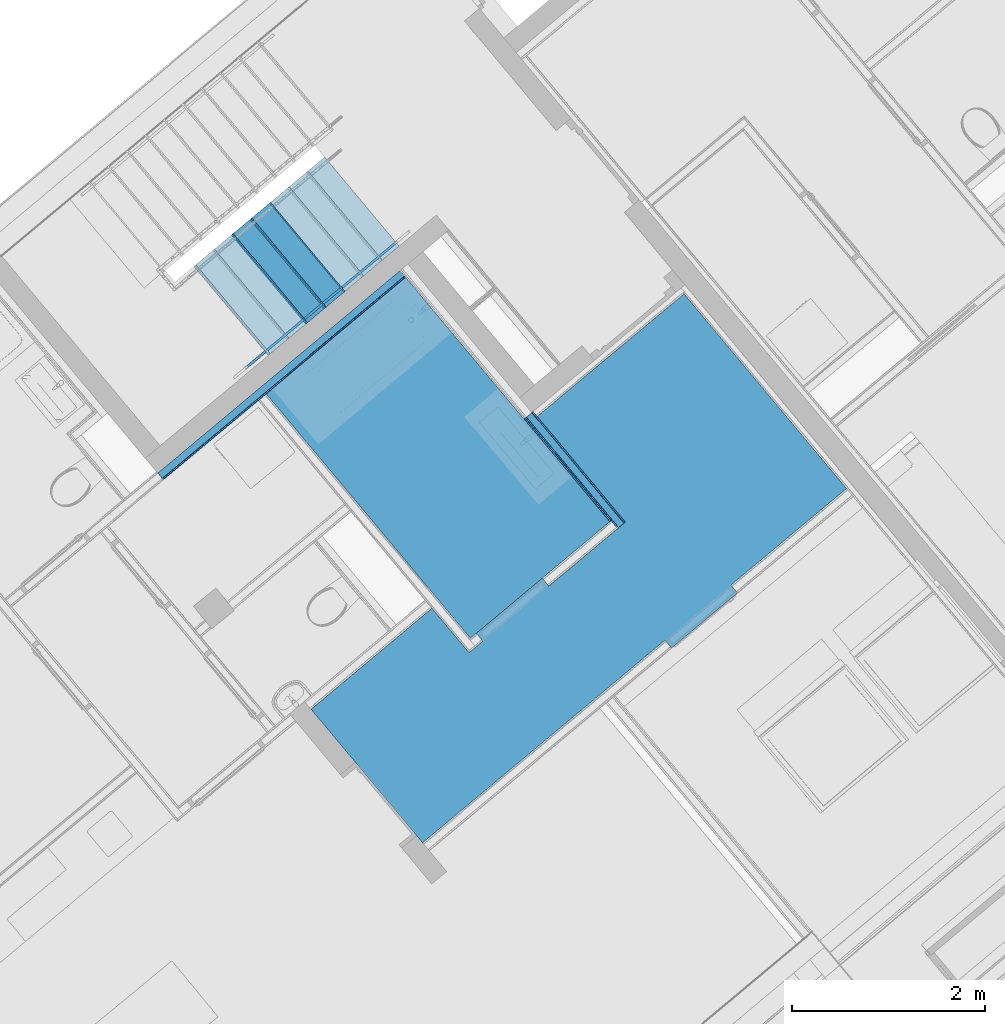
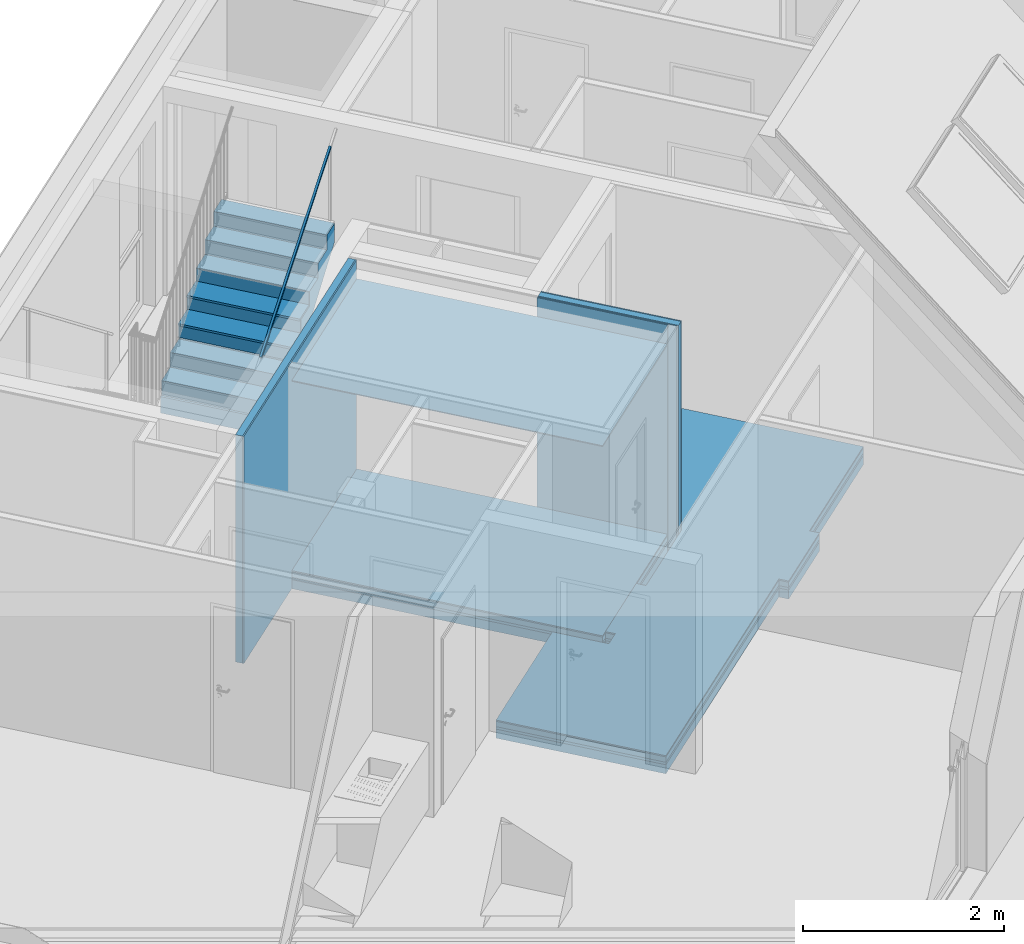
# One storey, part 28 of 61: 22 building element parts, 7 elements without a shape of their own.
"""IFC4 building model written with IfcOpenShell, lengths in metres."""

from ifc_helpers import new_model, entity, si_unit, converted_unit, derived_unit, direction, frame, origin_with_axes, place, context, subcontext, project, spatial, polygons, material, type_object, element, aggregate, save


model = new_model("IFC4")

# Units and contexts
model_context = context("Model", 3, precision=1e-05, world=origin_with_axes(), true_north=direction((0.0, 1.0)))
body_context = subcontext(model_context, "Body", "Model", "MODEL_VIEW")
ifc_project = project(units=[si_unit("LENGTHUNIT", "METRE"), si_unit("AREAUNIT", "SQUARE_METRE"), si_unit("VOLUMEUNIT", "CUBIC_METRE"), converted_unit("PLANEANGLEUNIT", "DEGREE", entity("IfcPlaneAngleMeasure", 0.0174532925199), si_unit("PLANEANGLEUNIT", "RADIAN"), dimensions=[0, 0, 0, 0, 0, 0, 0]), converted_unit("TIMEUNIT", "Year", entity("IfcTimeMeasure", 31556926.0), si_unit("TIMEUNIT", "SECOND"), dimensions=[0, 0, 1, 0, 0, 0, 0]), si_unit("MASSUNIT", "GRAM", prefix="KILO"), si_unit("THERMODYNAMICTEMPERATUREUNIT", "DEGREE_CELSIUS"), si_unit("LUMINOUSINTENSITYUNIT", "LUMEN"), si_unit("ENERGYUNIT", "JOULE", prefix="MEGA"), derived_unit("THERMALCONDUCTANCEUNIT", [(si_unit("POWERUNIT", "WATT"), 1), (si_unit("LENGTHUNIT", "METRE"), -1), (si_unit("THERMODYNAMICTEMPERATUREUNIT", "KELVIN"), -1)]), derived_unit("SPECIFICHEATCAPACITYUNIT", [(si_unit("ENERGYUNIT", "JOULE"), 1), (si_unit("MASSUNIT", "GRAM", prefix="KILO"), -1), (si_unit("THERMODYNAMICTEMPERATUREUNIT", "KELVIN"), -1)]), derived_unit("MASSDENSITYUNIT", [(si_unit("MASSUNIT", "GRAM", prefix="KILO"), 1), (si_unit("VOLUMEUNIT", "CUBIC_METRE"), -1)])], contexts=[model_context])

# Site, building, storey
site_placement = place(None, frame((-0.00153261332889, -0.00661245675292, 0.0), z_axis=(0.0, 0.0, 1.0), x_axis=(1.0, 0.0, 0.0)))
site = spatial("IfcSite", under=ifc_project, at=site_placement, Name="Gelände", CompositionType="ELEMENT")
building_placement = place(site_placement, origin_with_axes())
building = spatial("IfcBuilding", under=site, at=building_placement, Name="Gebäude", CompositionType="ELEMENT")
storey_placement = place(building_placement, frame((0.0, 0.0, 5.7), z_axis=(0.0, 0.0, 1.0), x_axis=(1.0, 0.0, 0.0)))
storey = spatial("IfcBuildingStorey", under=building, at=storey_placement, Name="DG1", CompositionType="ELEMENT", Elevation=5.7)

# Wall, building element parts
wall_type_1 = type_object("IfcWallType", Name="LB 13 cm doppelte Vorsatzschale Bad  120", PredefinedType="NOTDEFINED")
wall_1_placement = place(storey_placement, frame((1.57370414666, 20.8430493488, 0.0), z_axis=(0.0, 0.0, 1.0), x_axis=(0.641149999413, -0.767415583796, 0.0)))
wall_1 = element("IfcWall", 1, at=wall_1_placement, inside=storey, type_object=wall_type_1, Name="Wand-013", PredefinedType="NOTDEFINED")
ifc_material_1 = material(Name="Gipsputz")
building_element_part_1_placement = place(wall_1_placement, origin_with_axes())
building_element_part_1 = element("IfcBuildingElementPart", 2, at=building_element_part_1_placement, material=ifc_material_1, Name="Gipsputz", PredefinedType="NOTDEFINED", context=body_context, shape_type="Tessellation", body=[
    polygons([(1.48844578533, 0.12, 2.76), (0.0, 0.12, 2.76), (0.0, 0.105, 2.76), (1.48844694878, 0.105, 2.76), (1.48844578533, 0.12, 0.0), (0.0, 0.12, 0.0), (0.0, 0.105, 0.0), (1.48844694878, 0.105, 0.0)], [[[1, 2, 3, 4]], [[5, 6, 2, 1]], [[3, 2, 6, 7]], [[4, 3, 7, 8]], [[4, 8, 5, 1]], [[8, 7, 6, 5]]], closed=True),
])
ifc_material_2 = material(Name="Mineralwolle weich")
building_element_part_2_placement = place(wall_1_placement, origin_with_axes())
building_element_part_2 = element("IfcBuildingElementPart", 3, at=building_element_part_2_placement, material=ifc_material_2, Name="Mineralwolle weich", PredefinedType="NOTDEFINED", context=body_context, shape_type="Tessellation", body=[
    polygons([(1.48844694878, 0.105, 2.76), (0.0, 0.105, 2.76), (0.0, 0.03, 2.76), (1.48845276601, 0.03, 2.76), (1.48844694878, 0.105, 0.0), (0.0, 0.105, 0.0), (0.0, 0.03, 0.0), (1.48845276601, 0.03, 0.0)], [[[1, 2, 3, 4]], [[5, 6, 2, 1]], [[3, 2, 6, 7]], [[4, 3, 7, 8]], [[4, 8, 5, 1]], [[8, 7, 6, 5]]], closed=True),
])
ifc_material_3 = material(Name="Gipskarton")
building_element_part_3_placement = place(wall_1_placement, origin_with_axes())
building_element_part_3 = element("IfcBuildingElementPart", 4, at=building_element_part_3_placement, material=ifc_material_3, Name="Gipskarton", PredefinedType="NOTDEFINED", context=body_context, shape_type="Tessellation", body=[
    polygons([(1.47345276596, 0.03, 2.76), (0.0, 0.03, 2.76), (0.0, 0.015, 2.76), (1.47345392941, 0.015, 2.76), (1.47345276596, 0.03, 0.0), (0.0, 0.03, 0.0), (0.0, 0.015, 0.0), (1.47345392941, 0.015, 0.0)], [[[1, 2, 3, 4]], [[5, 6, 2, 1]], [[3, 2, 6, 7]], [[4, 3, 7, 8]], [[4, 8, 5, 1]], [[8, 7, 6, 5]]], closed=True),
])
building_element_part_4_placement = place(wall_1_placement, origin_with_axes())
building_element_part_4 = element("IfcBuildingElementPart", 5, at=building_element_part_4_placement, material=ifc_material_3, Name="Gipskarton", PredefinedType="NOTDEFINED", context=body_context, shape_type="Tessellation", body=[
    polygons([(1.38345392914, 0.015, 2.76), (0.0, 0.015, 2.76), (0.0, 0.0, 2.76), (1.38345509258, 0.0, 2.76), (1.38345392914, 0.015, 0.0), (0.0, 0.015, 0.0), (0.0, 0.0, 0.0), (1.38345509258, 0.0, 0.0)], [[[1, 2, 3, 4]], [[5, 6, 2, 1]], [[3, 2, 6, 7]], [[4, 3, 7, 8]], [[4, 8, 5, 1]], [[8, 7, 6, 5]]], closed=True),
])
aggregate(wall_1, [building_element_part_1, building_element_part_2, building_element_part_3, building_element_part_4])

wall_type_2 = type_object("IfcWallType", Name="LB 9,0 cm einfache Vorsatzschale  90", PredefinedType="NOTDEFINED")
wall_2_placement = place(storey_placement, frame((0.371124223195, 22.44598682, 0.0), z_axis=(0.0, 0.0, 1.0), x_axis=(-0.767365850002, -0.641209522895, 0.0)))
wall_2 = element("IfcWall", 6, at=wall_2_placement, inside=storey, type_object=wall_type_2, Name="Wand-006", PredefinedType="NOTDEFINED")
building_element_part_5_placement = place(wall_2_placement, origin_with_axes())
building_element_part_5 = element("IfcBuildingElementPart", 7, at=building_element_part_5_placement, material=ifc_material_3, Name="Gipskarton", PredefinedType="NOTDEFINED", context=body_context, shape_type="Tessellation", body=[
    polygons([(0.105000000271, 0.09, 0.0), (0.105000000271, 0.09, 2.76), (3.37051675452, 0.09, 2.76), (3.37051675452, 0.09, 0.0), (0.105000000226, 0.075, 2.76), (0.105000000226, 0.075, 0.0), (3.37051675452, 0.075, 2.76), (3.37051675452, 0.075, 0.0)], [[[1, 2, 3, 4]], [[5, 2, 1, 6]], [[2, 5, 7, 3]], [[7, 8, 4, 3]], [[6, 1, 4, 8]], [[5, 6, 8, 7]]], closed=True),
])
building_element_part_6_placement = place(wall_2_placement, origin_with_axes())
building_element_part_6 = element("IfcBuildingElementPart", 8, at=building_element_part_6_placement, material=ifc_material_2, Name="Mineralwolle weich", PredefinedType="NOTDEFINED", context=body_context, shape_type="Tessellation", body=[
    polygons([(0.105000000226, 0.075, 0.0), (0.105000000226, 0.075, 2.76), (3.37051675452, 0.075, 2.76), (3.37051675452, 0.075, 0.0), (0.105, -2.70841127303e-10, 2.76), (0.105, -2.25703900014e-10, 0.0), (3.37051675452, 0.0, 2.76), (3.37051675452, 0.0, 0.0)], [[[1, 2, 3, 4]], [[5, 2, 1, 6]], [[2, 5, 7, 3]], [[7, 8, 4, 3]], [[6, 1, 4, 8]], [[5, 6, 8, 7]]], closed=True),
])
aggregate(wall_2, [building_element_part_5, building_element_part_6])

# Space
space_1_placement = place(storey_placement, frame((0.280300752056, 22.6307267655, 0.22), z_axis=(0.0, 0.0, 1.0), x_axis=(-0.641244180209, 0.767336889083, 0.0)))
space_1 = spatial("IfcSpace", under=storey, at=space_1_placement, CompositionType="ELEMENT", PredefinedType="NOTDEFINED")

# Railing, building element part
railing_type = type_object("IfcRailingType", Name="Geländerart", PredefinedType="NOTDEFINED")
railing_placement = place(space_1_placement, frame((9.09464852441e-05, 2.01352288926, 1.60058823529), z_axis=(0.0, 0.0, 1.0), x_axis=(-0.641244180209, -0.767336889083, 0.0)))
railing = element("IfcRailing", 9, at=railing_placement, inside=space_1, type_object=railing_type, Name="Geländer - 002", PredefinedType="NOTDEFINED")
ifc_material_4 = material(Name="BEKLEIDUNG")
building_element_part_7_placement = place(railing_placement, origin_with_axes())
building_element_part_7 = element("IfcBuildingElementPart", 10, at=building_element_part_7_placement, material=ifc_material_4, Name="BEKLEIDUNG", PredefinedType="NOTDEFINED", context=body_context, shape_type="Tessellation", body=[
    polygons([(-0.024045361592, 0.0287762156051, 0.9), (-0.0139891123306, 0.0371791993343, 0.878710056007), (1.53111960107, 1.32826925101, 2.11812182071), (1.52106335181, 1.31986626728, 2.13941176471), (-0.0400755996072, 0.0479603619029, 0.9), (-0.0300193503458, 0.0563633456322, 0.878710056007), (1.51508936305, 1.34745339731, 2.11812182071), (1.50503311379, 1.33905041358, 2.13941176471)], [[[1, 2, 3, 4]], [[1, 5, 6, 2]], [[2, 6, 7, 3]], [[4, 3, 7, 8]], [[5, 1, 4, 8]], [[6, 5, 8, 7]]], closed=True),
])
aggregate(railing, [building_element_part_7])

# Stair, building element parts
stair_type = type_object("IfcStairType", Name="Treppentyp", PredefinedType="NOTDEFINED")
stair_placement = place(space_1_placement, frame((2.55980055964, -0.50704333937, -0.17), z_axis=(0.0, 0.0, 1.0), x_axis=(-0.641244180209, -0.767336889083, 0.0)))
stair = element("IfcStair", 11, at=stair_placement, inside=space_1, type_object=stair_type, Name="Treppe - 001", PredefinedType="NOTDEFINED")
ifc_material_5 = material(Name="Stahlbeton Decke")
building_element_part_8_placement = place(stair_placement, origin_with_axes())
building_element_part_8 = element("IfcBuildingElementPart", 12, at=building_element_part_8_placement, material=ifc_material_5, Name="Stahlbeton Decke", PredefinedType="NOTDEFINED", context=body_context, shape_type="Tessellation", body=[
    polygons([(1.12362509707, -2.39695883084, 2.64145231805), (1.18800462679, -2.34316341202, 2.70047192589), (1.25238415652, -2.2893679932, 2.75949153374), (1.25238415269, -2.28936798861, 2.985), (1.0785064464, -2.4346598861, 2.985), (1.0785064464, -2.4346598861, 2.80794117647), (0.885367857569, -2.59604614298, 2.80794117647), (0.885367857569, -2.59604614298, 2.63088235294), (0.692229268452, -2.75743239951, 2.63088235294), (0.692229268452, -2.75743239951, 2.45382352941), (0.499090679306, -2.918818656, 2.45382352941), (0.499090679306, -2.918818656, 2.27676470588), (0.305952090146, -3.08020491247, 2.27676470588), (0.305952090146, -3.08020491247, 2.09970588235), (0.112813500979, -3.24159116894, 2.09970588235), (0.112813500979, -3.24159116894, 1.92264705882), (-0.0803250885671, -3.40297742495, 1.92264705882), (-0.0803250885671, -3.40297742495, 1.74558823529), (-0.0995859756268, -3.41907178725, 1.74558823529), (-0.0995859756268, -3.41907178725, 1.54558823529), (-0.0717609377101, -3.39582123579, 1.54558823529), (-0.0673962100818, -3.39217407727, 1.54958957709), (-0.0352064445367, -3.36527636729, 1.57909938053), (-0.0030166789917, -3.33837865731, 1.60860918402), (0.0291730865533, -3.31148094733, 1.6381189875), (0.0613628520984, -3.28458323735, 1.66762879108), (0.0935526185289, -3.25768552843, 1.69713859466), (0.125742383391, -3.23078781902, 1.72664839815), (0.157932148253, -3.20389010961, 1.75615820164), (0.190121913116, -3.1769924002, 1.78566800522), (0.222311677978, -3.15009469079, 1.8151778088), (0.25450144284, -3.12319698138, 1.8446876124), (0.286691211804, -3.09629927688, 1.874197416), (0.351070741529, -3.04250385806, 1.93321702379), (0.415450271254, -2.98870843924, 1.99223663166), (0.479829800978, -2.93491302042, 2.05125623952), (0.544209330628, -2.88111760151, 2.11027584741), (0.608588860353, -2.82732218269, 2.16929545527), (0.672968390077, -2.77352676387, 2.22831506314), (0.73734791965, -2.71973134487, 2.28733467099), (0.801727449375, -2.66593592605, 2.34635427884), (0.8661069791, -2.61214050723, 2.40537388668), (0.930486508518, -2.55834508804, 2.46439349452), (0.994866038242, -2.50454966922, 2.52341310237), (1.05924556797, -2.4507542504, 2.58243271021), (0.418553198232, -1.42232438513, 2.70047192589), (0.354173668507, -1.47611980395, 2.64145231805), (0.482932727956, -1.36852896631, 2.75949153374), (0.482932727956, -1.36852896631, 2.985), (0.309055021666, -1.51382086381, 2.985), (0.309055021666, -1.51382086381, 2.80794117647), (0.115916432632, -1.67520712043, 2.80794117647), (0.115916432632, -1.67520712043, 2.63088235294), (-0.0772221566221, -1.8365933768, 2.63088235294), (-0.0772221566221, -1.8365933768, 2.45382352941), (-0.270360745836, -1.99797963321, 2.45382352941), (-0.270360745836, -1.99797963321, 2.27676470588), (-0.463499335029, -2.15936588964, 2.27676470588), (-0.463499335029, -2.15936588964, 2.09970588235), (-0.656637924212, -2.32075214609, 2.09970588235), (-0.656637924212, -2.32075214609, 1.92264705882), (-0.849776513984, -2.48213840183, 1.92264705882), (-0.849776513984, -2.48213840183, 1.74558823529), (-0.86903741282, -2.49823277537, 1.74558823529), (-0.869037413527, -2.49823277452, 1.54558823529), (-0.841212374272, -2.47498222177, 1.54558823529), (-0.815129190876, -2.50619720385, 1.54558823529), (-0.482569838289, -2.90418674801, 1.54558823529), (-0.430403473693, -2.96661670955, 1.54558823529), (-0.0978441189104, -3.36460625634, 1.54558823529), (-0.227569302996, -3.13506661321, 1.57909938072), (-0.163189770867, -3.08127119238, 1.63811898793), (-0.0988102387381, -3.02747577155, 1.69713859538), (-0.0344307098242, -2.97368035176, 1.75615820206), (0.0299488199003, -2.91988493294, 1.81517780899), (0.0943283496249, -2.86608951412, 1.87419741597), (-0.418380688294, -2.12166482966, 1.93321702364), (-0.290397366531, -2.40566999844, 1.8741974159), (-0.482760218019, -2.17546024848, 1.87419741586), (-0.35400115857, -2.06786941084, 1.99223663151), (-0.289621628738, -2.01407399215, 2.0512562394), (-0.225242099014, -1.96027857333, 2.11027584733), (-0.160862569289, -1.90648315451, 2.16929545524), (-0.0964830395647, -1.85268773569, 2.22831506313), (-0.0321035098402, -1.79889231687, 2.28733467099), (0.0322760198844, -1.74509689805, 2.34635427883), (0.0966555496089, -1.69130147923, 2.40537388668), (0.161035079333, -1.63750606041, 2.46439349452), (0.225414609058, -1.58371064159, 2.52341310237), (0.289794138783, -1.52991522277, 2.58243271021), (-0.804657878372, -2.44443735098, 1.57909938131), (-0.836847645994, -2.4713350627, 1.54958957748), (-0.514949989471, -2.20235795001, 1.84468761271), (-0.547139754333, -2.22925565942, 1.81517780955), (-0.579329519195, -2.25615336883, 1.78566800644), (-0.611519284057, -2.28305107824, 1.75615820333), (-0.64370904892, -2.30994878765, 1.72664840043), (-0.675898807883, -2.33684650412, 1.69713859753), (-0.708088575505, -2.36374421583, 1.66762879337), (-0.740278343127, -2.39064192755, 1.6381189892), (-0.77246811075, -2.41753963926, 1.60860918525), (-0.612295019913, -2.67464710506, 1.57909938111), (-0.452121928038, -2.93175456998, 1.54958957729), (-0.387742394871, -2.87795914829, 1.60860918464), (-0.323362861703, -2.82416372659, 1.66762879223), (-0.258983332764, -2.77036830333, 1.72664839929), (-0.19460380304, -2.71657288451, 1.78566800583), (-0.130224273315, -2.66277746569, 1.84468761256), (-0.354776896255, -2.45946541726, 1.81517780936), (-0.41915642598, -2.51326083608, 1.75615820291), (-0.483535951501, -2.56705625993, 1.69713859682), (-0.547915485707, -2.62085168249, 1.63811898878)], [[[1, 2, 3, 4, 5, 6, 7, 8, 9, 10, 11, 12, 13, 14, 15, 16, 17, 18, 19, 20, 21, 22, 23, 24, 25, 26, 27, 28, 29, 30, 31, 32, 33, 34, 35, 36, 37, 38, 39, 40, 41, 42, 43, 44, 45]], [[46, 2, 1, 47]], [[48, 3, 2, 46]], [[4, 3, 48, 49]], [[4, 49, 50, 5]], [[50, 51, 6, 5]], [[52, 7, 6, 51]], [[52, 53, 8, 7]], [[54, 9, 8, 53]], [[54, 55, 10, 9]], [[56, 11, 10, 55]], [[56, 57, 12, 11]], [[58, 13, 12, 57]], [[58, 59, 14, 13]], [[60, 15, 14, 59]], [[60, 61, 16, 15]], [[62, 17, 16, 61]], [[62, 63, 18, 17]], [[63, 64, 19, 18]], [[65, 20, 19, 64]], [[21, 20, 65, 66, 67, 68, 69, 70]], [[70, 22, 21]], [[71, 23, 22]], [[71, 24, 23]], [[72, 25, 24]], [[72, 26, 25]], [[73, 27, 26]], [[73, 28, 27]], [[74, 29, 28]], [[74, 30, 29]], [[75, 31, 30]], [[75, 32, 31]], [[76, 33, 32]], [[77, 34, 33, 76, 78, 79]], [[80, 35, 34, 77]], [[81, 36, 35, 80]], [[82, 37, 36, 81]], [[83, 38, 37, 82]], [[84, 39, 38, 83]], [[85, 40, 39, 84]], [[86, 41, 40, 85]], [[87, 42, 41, 86]], [[88, 43, 42, 87]], [[89, 44, 43, 88]], [[90, 45, 44, 89]], [[47, 1, 45, 90]], [[91, 92, 66, 65, 64, 63, 62, 61, 60, 59, 58, 57, 56, 55, 54, 53, 52, 51, 50, 49, 48, 46, 47, 90, 89, 88, 87, 86, 85, 84, 83, 82, 81, 80, 77, 79, 93, 94, 95, 96, 97, 98, 99, 100, 101]], [[67, 66, 92]], [[67, 92, 102, 103, 68]], [[69, 68, 103]], [[103, 71, 22, 70, 69]], [[104, 72, 24, 71]], [[105, 73, 26, 72]], [[106, 74, 28, 73]], [[74, 107, 75, 30]], [[108, 76, 32, 75]], [[108, 78, 76]], [[78, 93, 79]], [[102, 92, 91]], [[109, 94, 93]], [[109, 95, 94]], [[110, 96, 95]], [[110, 97, 96]], [[111, 98, 97]], [[111, 99, 98]], [[112, 100, 99]], [[112, 101, 100]], [[102, 91, 101]], [[103, 102, 71]], [[72, 104, 112]], [[71, 102, 104]], [[73, 105, 111]], [[112, 105, 72]], [[74, 106, 110]], [[73, 111, 106]], [[74, 110, 107]], [[75, 107, 109]], [[109, 108, 75]], [[109, 93, 78, 108]], [[95, 109, 107, 110]], [[111, 97, 110, 106]], [[99, 111, 105, 112]], [[102, 101, 112, 104]]], closed=True),
])
building_element_part_9_placement = place(stair_placement, origin_with_axes())
building_element_part_9 = element("IfcBuildingElementPart", 13, at=building_element_part_9_placement, material=ifc_material_4, Name="BEKLEIDUNG", PredefinedType="NOTDEFINED", context=body_context, shape_type="Tessellation", body=[
    polygons([(0.298201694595, -3.0866811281, 2.27676470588), (0.305875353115, -3.08026903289, 2.27676470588), (-0.463576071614, -2.1594300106, 2.27676470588), (-0.471249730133, -2.1658421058, 2.27676470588), (0.298201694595, -3.0866811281, 2.12470588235), (0.305875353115, -3.08026903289, 2.12470588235), (-0.463576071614, -2.1594300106, 2.12470588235), (-0.471249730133, -2.1658421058, 2.12470588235)], [[[1, 2, 3, 4]], [[1, 5, 6, 2]], [[2, 6, 7, 3]], [[4, 3, 7, 8]], [[5, 1, 4, 8]], [[6, 5, 8, 7]]], closed=True),
])
building_element_part_10_placement = place(stair_placement, origin_with_axes())
building_element_part_10 = element("IfcBuildingElementPart", 14, at=building_element_part_10_placement, material=ifc_material_4, Name="BEKLEIDUNG", PredefinedType="NOTDEFINED", context=body_context, shape_type="Tessellation", body=[
    polygons([(0.491340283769, -2.92529487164, 2.45382352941), (0.499013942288, -2.91888277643, 2.45382352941), (-0.270437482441, -1.99804375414, 2.45382352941), (-0.27811114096, -2.00445584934, 2.45382352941), (0.491340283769, -2.92529487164, 2.30176470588), (0.499013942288, -2.91888277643, 2.30176470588), (-0.270437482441, -1.99804375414, 2.30176470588), (-0.27811114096, -2.00445584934, 2.30176470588)], [[[1, 2, 3, 4]], [[1, 5, 6, 2]], [[2, 6, 7, 3]], [[4, 3, 7, 8]], [[5, 1, 4, 8]], [[6, 5, 8, 7]]], closed=True),
])
building_element_part_11_placement = place(stair_placement, origin_with_axes())
building_element_part_11 = element("IfcBuildingElementPart", 15, at=building_element_part_11_placement, material=ifc_material_4, Name="BEKLEIDUNG", PredefinedType="NOTDEFINED", context=body_context, shape_type="Tessellation", body=[
    polygons([(0.684478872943, -2.76390861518, 2.63088235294), (0.692152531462, -2.75749651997, 2.63088235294), (-0.0772988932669, -1.83665749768, 2.63088235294), (-0.084972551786, -1.84306959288, 2.63088235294), (0.684478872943, -2.76390861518, 2.47882352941), (0.692152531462, -2.75749651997, 2.47882352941), (-0.0772988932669, -1.83665749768, 2.47882352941), (-0.084972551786, -1.84306959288, 2.47882352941)], [[[1, 2, 3, 4]], [[1, 5, 6, 2]], [[2, 6, 7, 3]], [[4, 3, 7, 8]], [[5, 1, 4, 8]], [[6, 5, 8, 7]]], closed=True),
])
building_element_part_12_placement = place(stair_placement, origin_with_axes())
building_element_part_12 = element("IfcBuildingElementPart", 16, at=building_element_part_12_placement, material=ifc_material_4, Name="BEKLEIDUNG", PredefinedType="NOTDEFINED", context=body_context, shape_type="Tessellation", body=[
    polygons([(-0.482760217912, -2.17546024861, 2.27676470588), (0.286691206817, -3.09629927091, 2.27676470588), (0.286691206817, -3.09629927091, 2.30176470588), (-0.482760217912, -2.17546024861, 2.30176470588), (-0.270437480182, -1.99804375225, 2.27676470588), (0.499013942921, -2.9188827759, 2.27676470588), (0.499013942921, -2.9188827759, 2.30176470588), (-0.270437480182, -1.99804375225, 2.30176470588)], [[[1, 2, 3, 4]], [[1, 5, 6, 2]], [[2, 6, 7, 3]], [[4, 3, 7, 8]], [[5, 1, 4, 8]], [[6, 5, 8, 7]]], closed=True),
])
building_element_part_13_placement = place(stair_placement, origin_with_axes())
building_element_part_13 = element("IfcBuildingElementPart", 17, at=building_element_part_13_placement, material=ifc_material_4, Name="BEKLEIDUNG", PredefinedType="NOTDEFINED", context=body_context, shape_type="Tessellation", body=[
    polygons([(-0.289621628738, -2.01407399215, 2.45382352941), (0.47982979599, -2.93491301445, 2.45382352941), (0.47982979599, -2.93491301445, 2.47882352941), (-0.289621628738, -2.01407399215, 2.47882352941), (-0.0772988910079, -1.83665749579, 2.45382352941), (0.692152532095, -2.75749651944, 2.45382352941), (0.692152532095, -2.75749651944, 2.47882352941), (-0.0772988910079, -1.83665749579, 2.47882352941)], [[[1, 2, 3, 4]], [[1, 5, 6, 2]], [[2, 6, 7, 3]], [[4, 3, 7, 8]], [[5, 1, 4, 8]], [[6, 5, 8, 7]]], closed=True),
])
aggregate(stair, [building_element_part_8, building_element_part_9, building_element_part_10, building_element_part_11, building_element_part_12, building_element_part_13])

# Space
space_2_placement = place(storey_placement, frame((-1.0947353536, 21.1038328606, 0.22), z_axis=(0.0, 0.0, 1.0), x_axis=(0.641209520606, -0.767365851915, 0.0)))
space_2 = spatial("IfcSpace", under=storey, at=space_2_placement, CompositionType="ELEMENT", PredefinedType="NOTDEFINED")

# Slab, building element part
slab_type = type_object("IfcSlabType", Name="Vorsatzschale Garage 130", PredefinedType="NOTDEFINED")
slab_placement = place(space_2_placement, frame((-2.28857999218e-09, 0.0, 2.43), z_axis=(0.0, 0.0, 1.0), x_axis=(0.641209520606, 0.767365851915, 0.0)))
slab = element("IfcSlab", 18, at=slab_placement, inside=space_2, type_object=slab_type, Name="Decke-005", PredefinedType="NOTDEFINED")
ifc_material_6 = material(Name="Zementputz")
building_element_part_14_placement = place(slab_placement, origin_with_axes())
building_element_part_14 = element("IfcBuildingElementPart", 19, at=building_element_part_14_placement, material=ifc_material_6, Name="Zementputz", PredefinedType="NOTDEFINED", context=body_context, shape_type="Tessellation", body=[
    polygons([(0.0, 0.0, -0.13), (2.11252905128, -2.52816373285, -0.13), (2.11252905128, -2.52816373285, -0.12), (0.0, 0.0, -0.12), (1.44299501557, 1.20576403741, -0.13), (3.55544172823, -1.32246850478, -0.13), (3.55544172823, -1.32246850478, -0.12), (1.44299501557, 1.20576403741, -0.12)], [[[1, 2, 3, 4]], [[1, 5, 6, 2]], [[2, 6, 7, 3]], [[4, 3, 7, 8]], [[5, 1, 4, 8]], [[6, 5, 8, 7]]], closed=True),
])
aggregate(slab, [building_element_part_14])

# Covering, building element parts
covering_type = type_object("IfcCoveringType", Name="DE 01 Decke Wohnung/Wohnung Fließen 220", PredefinedType="NOTDEFINED")
covering_1_placement = place(storey_placement, frame((0.620119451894, 18.8878317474, 0.22), z_axis=(0.0, 0.0, 1.0), x_axis=(1.0, 0.0, 0.0)))
covering_1 = element("IfcCovering", 20, at=covering_1_placement, inside=storey, type_object=covering_type, Name="Decke-002", PredefinedType="NOTDEFINED")
ifc_material_7 = material(Name="Fliesen")
building_element_part_15_placement = place(covering_1_placement, origin_with_axes())
building_element_part_15 = element("IfcBuildingElementPart", 21, at=building_element_part_15_placement, material=ifc_material_7, Name="Fliesen", PredefinedType="NOTDEFINED", context=body_context, shape_type="Tessellation", body=[
    polygons([(1.08734929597, 1.98227361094, 0.0), (1.99999157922, 0.889899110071, 0.0), (1.20943260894, 0.229309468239, 0.0), (1.14210555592, 0.309882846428, 0.0), (0.459149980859, -0.260793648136, 0.0), (0.526476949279, -0.341367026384, 0.0), (0.384427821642, -0.460063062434, 0.0), (0.0, 0.0, 0.0), (-1.25133214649, -1.04561091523, 0.0), (-0.0965096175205, -2.42764183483, 0.0), (1.25499141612, -1.29833000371, 0.0), (1.93794697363, -0.727653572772, 0.0), (2.40987198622, -0.333313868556, 0.0), (2.47719895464, -0.413887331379, 0.0), (3.16015461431, 0.156789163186, 0.0), (3.09282756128, 0.237362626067, 0.0), (4.28845343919, 1.23642541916, 0.0), (2.6068880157, 3.25077620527, 0.0), (1.99999157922, 0.889899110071, -0.015), (1.08734929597, 1.98227361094, -0.015), (1.20943260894, 0.229309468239, -0.015), (1.14210555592, 0.309882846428, -0.015), (0.459149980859, -0.260793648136, -0.015), (0.526476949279, -0.341367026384, -0.015), (0.384427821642, -0.460063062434, -0.015), (0.0, 0.0, -0.015), (-1.25133214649, -1.04561091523, -0.015), (-0.0965096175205, -2.42764183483, -0.015), (1.25499141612, -1.29833000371, -0.015), (1.93794697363, -0.727653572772, -0.015), (2.40987198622, -0.333313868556, -0.015), (2.47719895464, -0.413887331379, -0.015), (3.16015461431, 0.156789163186, -0.015), (3.09282756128, 0.237362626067, -0.015), (4.28845343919, 1.23642541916, -0.015), (2.6068880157, 3.25077620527, -0.015)], [[[1, 2, 3, 4, 5, 6, 7, 8, 9, 10, 11, 12, 13, 14, 15, 16, 17, 18]], [[19, 2, 1, 20]], [[2, 19, 21, 3]], [[21, 22, 4, 3]], [[22, 23, 5, 4]], [[23, 24, 6, 5]], [[24, 25, 7, 6]], [[25, 26, 8, 7]], [[26, 27, 9, 8]], [[27, 28, 10, 9]], [[29, 11, 10, 28]], [[30, 12, 11, 29]], [[12, 30, 31, 13]], [[31, 32, 14, 13]], [[32, 33, 15, 14]], [[33, 34, 16, 15]], [[34, 35, 17, 16]], [[35, 36, 18, 17]], [[20, 1, 18, 36]], [[19, 20, 36, 35, 34, 33, 32, 31, 30, 29, 28, 27, 26, 25, 24, 23, 22, 21]]], closed=True),
])
ifc_material_8 = material(Name="Estrich")
building_element_part_16_placement = place(covering_1_placement, origin_with_axes())
building_element_part_16 = element("IfcBuildingElementPart", 22, at=building_element_part_16_placement, material=ifc_material_8, Name="Estrich", PredefinedType="NOTDEFINED", context=body_context, shape_type="Tessellation", body=[
    polygons([(1.08734929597, 1.98227361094, -0.015), (1.99999157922, 0.889899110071, -0.015), (1.20943260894, 0.229309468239, -0.015), (1.14210555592, 0.309882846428, -0.015), (0.459149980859, -0.260793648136, -0.015), (0.526476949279, -0.341367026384, -0.015), (0.384427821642, -0.460063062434, -0.015), (0.0, 0.0, -0.015), (-1.25133214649, -1.04561091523, -0.015), (-0.0965096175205, -2.42764183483, -0.015), (1.25499141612, -1.29833000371, -0.015), (1.93794697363, -0.727653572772, -0.015), (2.40987198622, -0.333313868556, -0.015), (2.47719895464, -0.413887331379, -0.015), (3.16015461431, 0.156789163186, -0.015), (3.09282756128, 0.237362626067, -0.015), (4.28845343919, 1.23642541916, -0.015), (2.6068880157, 3.25077620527, -0.015), (1.99999157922, 0.889899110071, -0.08), (1.08734929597, 1.98227361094, -0.08), (1.20943260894, 0.229309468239, -0.08), (1.14210555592, 0.309882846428, -0.08), (0.459149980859, -0.260793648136, -0.08), (0.526476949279, -0.341367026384, -0.08), (0.384427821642, -0.460063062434, -0.08), (0.0, 0.0, -0.08), (-1.25133214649, -1.04561091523, -0.08), (-0.0965096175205, -2.42764183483, -0.08), (1.25499141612, -1.29833000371, -0.08), (1.93794697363, -0.727653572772, -0.08), (2.40987198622, -0.333313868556, -0.08), (2.47719895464, -0.413887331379, -0.08), (3.16015461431, 0.156789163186, -0.08), (3.09282756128, 0.237362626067, -0.08), (4.28845343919, 1.23642541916, -0.08), (2.6068880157, 3.25077620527, -0.08)], [[[1, 2, 3, 4, 5, 6, 7, 8, 9, 10, 11, 12, 13, 14, 15, 16, 17, 18]], [[19, 2, 1, 20]], [[2, 19, 21, 3]], [[21, 22, 4, 3]], [[22, 23, 5, 4]], [[23, 24, 6, 5]], [[24, 25, 7, 6]], [[25, 26, 8, 7]], [[26, 27, 9, 8]], [[27, 28, 10, 9]], [[29, 11, 10, 28]], [[30, 12, 11, 29]], [[12, 30, 31, 13]], [[31, 32, 14, 13]], [[32, 33, 15, 14]], [[33, 34, 16, 15]], [[34, 35, 17, 16]], [[35, 36, 18, 17]], [[20, 1, 18, 36]], [[19, 20, 36, 35, 34, 33, 32, 31, 30, 29, 28, 27, 26, 25, 24, 23, 22, 21]]], closed=True),
])
ifc_material_9 = material(Name="Trittschalldämmung")
building_element_part_17_placement = place(covering_1_placement, origin_with_axes())
building_element_part_17 = element("IfcBuildingElementPart", 23, at=building_element_part_17_placement, material=ifc_material_9, Name="Trittschalldämmung", PredefinedType="NOTDEFINED", context=body_context, shape_type="Tessellation", body=[
    polygons([(1.08734929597, 1.98227361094, -0.08), (1.99999157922, 0.889899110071, -0.08), (1.20943260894, 0.229309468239, -0.08), (1.14210555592, 0.309882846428, -0.08), (0.459149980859, -0.260793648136, -0.08), (0.526476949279, -0.341367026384, -0.08), (0.384427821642, -0.460063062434, -0.08), (0.0, 0.0, -0.08), (-1.25133214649, -1.04561091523, -0.08), (-0.0965096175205, -2.42764183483, -0.08), (1.25499141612, -1.29833000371, -0.08), (1.93794697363, -0.727653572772, -0.08), (2.40987198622, -0.333313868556, -0.08), (2.47719895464, -0.413887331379, -0.08), (3.16015461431, 0.156789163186, -0.08), (3.09282756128, 0.237362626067, -0.08), (4.28845343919, 1.23642541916, -0.08), (2.6068880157, 3.25077620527, -0.08), (1.99999157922, 0.889899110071, -0.11), (1.08734929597, 1.98227361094, -0.11), (1.20943260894, 0.229309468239, -0.11), (1.14210555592, 0.309882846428, -0.11), (0.459149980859, -0.260793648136, -0.11), (0.526476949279, -0.341367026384, -0.11), (0.384427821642, -0.460063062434, -0.11), (0.0, 0.0, -0.11), (-1.25133214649, -1.04561091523, -0.11), (-0.0965096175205, -2.42764183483, -0.11), (1.25499141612, -1.29833000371, -0.11), (1.93794697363, -0.727653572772, -0.11), (2.40987198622, -0.333313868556, -0.11), (2.47719895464, -0.413887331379, -0.11), (3.16015461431, 0.156789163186, -0.11), (3.09282756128, 0.237362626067, -0.11), (4.28845343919, 1.23642541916, -0.11), (2.6068880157, 3.25077620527, -0.11)], [[[1, 2, 3, 4, 5, 6, 7, 8, 9, 10, 11, 12, 13, 14, 15, 16, 17, 18]], [[19, 2, 1, 20]], [[2, 19, 21, 3]], [[21, 22, 4, 3]], [[22, 23, 5, 4]], [[23, 24, 6, 5]], [[24, 25, 7, 6]], [[25, 26, 8, 7]], [[26, 27, 9, 8]], [[27, 28, 10, 9]], [[29, 11, 10, 28]], [[30, 12, 11, 29]], [[12, 30, 31, 13]], [[31, 32, 14, 13]], [[32, 33, 15, 14]], [[33, 34, 16, 15]], [[34, 35, 17, 16]], [[35, 36, 18, 17]], [[20, 1, 18, 36]], [[19, 20, 36, 35, 34, 33, 32, 31, 30, 29, 28, 27, 26, 25, 24, 23, 22, 21]]], closed=True),
])
ifc_material_10 = material(Name="Schüttung")
building_element_part_18_placement = place(covering_1_placement, origin_with_axes())
building_element_part_18 = element("IfcBuildingElementPart", 24, at=building_element_part_18_placement, material=ifc_material_10, Name="Schüttung", PredefinedType="NOTDEFINED", context=body_context, shape_type="Tessellation", body=[
    polygons([(1.08734929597, 1.98227361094, -0.11), (1.99999157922, 0.889899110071, -0.11), (1.20943260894, 0.229309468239, -0.11), (1.14210555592, 0.309882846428, -0.11), (0.459149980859, -0.260793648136, -0.11), (0.526476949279, -0.341367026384, -0.11), (0.384427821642, -0.460063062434, -0.11), (0.0, 0.0, -0.11), (-1.25133214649, -1.04561091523, -0.11), (-0.0965096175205, -2.42764183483, -0.11), (1.25499141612, -1.29833000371, -0.11), (1.93794697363, -0.727653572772, -0.11), (2.40987198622, -0.333313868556, -0.11), (2.47719895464, -0.413887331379, -0.11), (3.16015461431, 0.156789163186, -0.11), (3.09282756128, 0.237362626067, -0.11), (4.28845343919, 1.23642541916, -0.11), (2.6068880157, 3.25077620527, -0.11), (1.99999157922, 0.889899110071, -0.22), (1.08734929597, 1.98227361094, -0.22), (1.20943260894, 0.229309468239, -0.22), (1.14210555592, 0.309882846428, -0.22), (0.459149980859, -0.260793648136, -0.22), (0.526476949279, -0.341367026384, -0.22), (0.384427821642, -0.460063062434, -0.22), (0.0, 0.0, -0.22), (-1.25133214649, -1.04561091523, -0.22), (-0.0965096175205, -2.42764183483, -0.22), (1.25499141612, -1.29833000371, -0.22), (1.93794697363, -0.727653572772, -0.22), (2.40987198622, -0.333313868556, -0.22), (2.47719895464, -0.413887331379, -0.22), (3.16015461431, 0.156789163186, -0.22), (3.09282756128, 0.237362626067, -0.22), (4.28845343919, 1.23642541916, -0.22), (2.6068880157, 3.25077620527, -0.22)], [[[1, 2, 3, 4, 5, 6, 7, 8, 9, 10, 11, 12, 13, 14, 15, 16, 17, 18]], [[19, 2, 1, 20]], [[2, 19, 21, 3]], [[3, 21, 22, 4]], [[4, 22, 23, 5]], [[5, 23, 24, 6]], [[6, 24, 25, 7]], [[7, 25, 26, 8]], [[8, 26, 27, 9]], [[9, 27, 28, 10]], [[29, 11, 10, 28]], [[30, 12, 11, 29]], [[12, 30, 31, 13]], [[13, 31, 32, 14]], [[14, 32, 33, 15]], [[15, 33, 34, 16]], [[16, 34, 35, 17]], [[17, 35, 36, 18]], [[20, 1, 18, 36]], [[19, 20, 36, 35, 34, 33, 32, 31, 30, 29, 28, 27, 26, 25, 24, 23, 22, 21]]], closed=True),
])
aggregate(covering_1, [building_element_part_15, building_element_part_16, building_element_part_17, building_element_part_18])

covering_2_placement = place(storey_placement, frame((2.46070637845, 19.7813643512, 0.22), z_axis=(0.0, 0.0, 1.0), x_axis=(1.0, 0.0, 0.0)))
covering_2 = element("IfcCovering", 25, at=covering_2_placement, inside=storey, type_object=covering_type, Name="Decke-003", PredefinedType="NOTDEFINED")
building_element_part_19_placement = place(covering_2_placement, origin_with_axes())
building_element_part_19 = element("IfcBuildingElementPart", 26, at=building_element_part_19_placement, material=ifc_material_7, Name="Fliesen", PredefinedType="NOTDEFINED", context=body_context, shape_type="Tessellation", body=[
    polygons([(-2.11244671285, 2.52823254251, -0.015), (-2.11244671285, 2.52823254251, 0.0), (0.0, 0.0, 0.0), (0.0, 0.0, -0.015), (-3.55544192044, 1.32246835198, -0.015), (-3.55544192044, 1.32246835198, 0.0), (-1.44291267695, -1.20569522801, 0.0), (-1.44291267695, -1.20569522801, -0.015)], [[[1, 2, 3, 4]], [[5, 6, 2, 1]], [[3, 2, 6, 7]], [[4, 3, 7, 8]], [[4, 8, 5, 1]], [[8, 7, 6, 5]]], closed=True),
])
building_element_part_20_placement = place(covering_2_placement, origin_with_axes())
building_element_part_20 = element("IfcBuildingElementPart", 27, at=building_element_part_20_placement, material=ifc_material_8, Name="Estrich", PredefinedType="NOTDEFINED", context=body_context, shape_type="Tessellation", body=[
    polygons([(-2.11244671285, 2.52823254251, -0.08), (-2.11244671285, 2.52823254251, -0.015), (0.0, 0.0, -0.015), (0.0, 0.0, -0.08), (-3.55544192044, 1.32246835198, -0.08), (-3.55544192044, 1.32246835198, -0.015), (-1.44291267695, -1.20569522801, -0.015), (-1.44291267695, -1.20569522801, -0.08)], [[[1, 2, 3, 4]], [[5, 6, 2, 1]], [[3, 2, 6, 7]], [[4, 3, 7, 8]], [[4, 8, 5, 1]], [[8, 7, 6, 5]]], closed=True),
])
building_element_part_21_placement = place(covering_2_placement, origin_with_axes())
building_element_part_21 = element("IfcBuildingElementPart", 28, at=building_element_part_21_placement, material=ifc_material_9, Name="Trittschalldämmung", PredefinedType="NOTDEFINED", context=body_context, shape_type="Tessellation", body=[
    polygons([(-2.11244671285, 2.52823254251, -0.11), (-2.11244671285, 2.52823254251, -0.08), (0.0, 0.0, -0.08), (0.0, 0.0, -0.11), (-3.55544192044, 1.32246835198, -0.11), (-3.55544192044, 1.32246835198, -0.08), (-1.44291267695, -1.20569522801, -0.08), (-1.44291267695, -1.20569522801, -0.11)], [[[1, 2, 3, 4]], [[5, 6, 2, 1]], [[3, 2, 6, 7]], [[4, 3, 7, 8]], [[4, 8, 5, 1]], [[8, 7, 6, 5]]], closed=True),
])
building_element_part_22_placement = place(covering_2_placement, origin_with_axes())
building_element_part_22 = element("IfcBuildingElementPart", 29, at=building_element_part_22_placement, material=ifc_material_10, Name="Schüttung", PredefinedType="NOTDEFINED", context=body_context, shape_type="Tessellation", body=[
    polygons([(0.0, 0.0, -0.22), (-2.11244671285, 2.52823254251, -0.22), (-2.11244671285, 2.52823254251, -0.11), (0.0, 0.0, -0.11), (-1.44291267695, -1.20569522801, -0.22), (-3.55544192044, 1.32246835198, -0.22), (-3.55544192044, 1.32246835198, -0.11), (-1.44291267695, -1.20569522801, -0.11)], [[[1, 2, 3, 4]], [[1, 5, 6, 2]], [[2, 6, 7, 3]], [[4, 3, 7, 8]], [[5, 1, 4, 8]], [[6, 5, 8, 7]]], closed=True),
])
aggregate(covering_2, [building_element_part_19, building_element_part_20, building_element_part_21, building_element_part_22])

save(model, "model.ifc")
